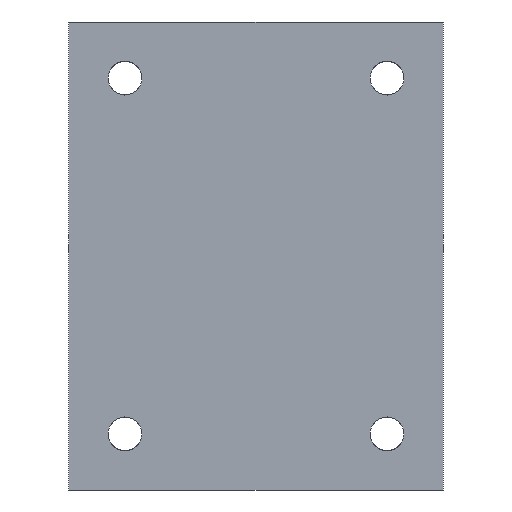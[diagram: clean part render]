
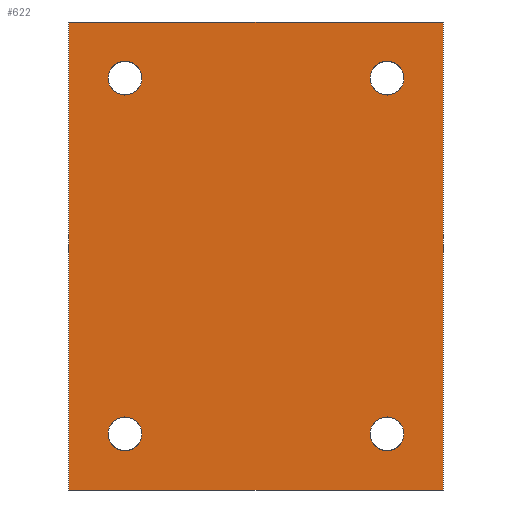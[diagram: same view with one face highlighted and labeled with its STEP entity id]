
A CAD part, front view. The second image highlights one B-rep face of the part: STEP entity #622.
In plain terms, the highlighted face is a extrusion surface.
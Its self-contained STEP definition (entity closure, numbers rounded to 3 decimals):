
#439=CARTESIAN_POINT('Control Point',(-100.,0.,0.)) ;
#440=CARTESIAN_POINT('Control Point',(-100.,0.,-125.)) ;
#444=CARTESIAN_POINT('Line Origine',(-50.,0.,-125.)) ;
#448=CARTESIAN_POINT('Vertex',(-100.,0.,-125.)) ;
#450=CARTESIAN_POINT('Vertex',(0.,0.,-125.)) ;
#453=CARTESIAN_POINT('Line Origine',(0.,0.,-62.5)) ;
#457=CARTESIAN_POINT('Vertex',(0.,0.,0.)) ;
#460=CARTESIAN_POINT('Line Origine',(-50.,0.,0.)) ;
#464=CARTESIAN_POINT('Vertex',(-100.,0.,0.)) ;
#467=CARTESIAN_POINT('Line Origine',(-100.,0.,-62.5)) ;
#479=CARTESIAN_POINT('Control Point',(-10.5,0.,-110.)) ;
#480=CARTESIAN_POINT('Control Point',(-10.5,0.,-111.247)) ;
#481=CARTESIAN_POINT('Control Point',(-10.932,0.,-112.494)) ;
#482=CARTESIAN_POINT('Control Point',(-11.8,0.,-113.539)) ;
#483=CARTESIAN_POINT('Control Point',(-13.71,0.,-114.63)) ;
#484=CARTESIAN_POINT('Control Point',(-15.841,0.,-114.54)) ;
#485=CARTESIAN_POINT('Control Point',(-16.671,0.,-114.305)) ;
#486=CARTESIAN_POINT('Control Point',(-18.085,0.,-113.511)) ;
#487=CARTESIAN_POINT('Control Point',(-19.032,0.,-112.204)) ;
#488=CARTESIAN_POINT('Control Point',(-19.344,0.,-111.498)) ;
#489=CARTESIAN_POINT('Control Point',(-19.5,0.,-110.749)) ;
#490=CARTESIAN_POINT('Control Point',(-19.5,0.,-110.)) ;
#491=CARTESIAN_POINT('Vertex',(-10.5,0.,-110.)) ;
#493=CARTESIAN_POINT('Vertex',(-19.5,0.,-110.)) ;
#497=CARTESIAN_POINT('Control Point',(-19.5,0.,-110.)) ;
#498=CARTESIAN_POINT('Control Point',(-19.5,0.,-108.753)) ;
#499=CARTESIAN_POINT('Control Point',(-19.068,0.,-107.506)) ;
#500=CARTESIAN_POINT('Control Point',(-18.2,0.,-106.461)) ;
#501=CARTESIAN_POINT('Control Point',(-16.29,0.,-105.37)) ;
#502=CARTESIAN_POINT('Control Point',(-14.159,0.,-105.46)) ;
#503=CARTESIAN_POINT('Control Point',(-13.329,0.,-105.695)) ;
#504=CARTESIAN_POINT('Control Point',(-11.915,0.,-106.489)) ;
#505=CARTESIAN_POINT('Control Point',(-10.968,0.,-107.796)) ;
#506=CARTESIAN_POINT('Control Point',(-10.656,0.,-108.502)) ;
#507=CARTESIAN_POINT('Control Point',(-10.5,0.,-109.251)) ;
#508=CARTESIAN_POINT('Control Point',(-10.5,0.,-110.)) ;
#515=CARTESIAN_POINT('Control Point',(-80.5,0.,-110.)) ;
#516=CARTESIAN_POINT('Control Point',(-80.5,0.,-111.247)) ;
#517=CARTESIAN_POINT('Control Point',(-80.932,0.,-112.494)) ;
#518=CARTESIAN_POINT('Control Point',(-81.8,0.,-113.539)) ;
#519=CARTESIAN_POINT('Control Point',(-83.71,0.,-114.63)) ;
#520=CARTESIAN_POINT('Control Point',(-85.841,0.,-114.54)) ;
#521=CARTESIAN_POINT('Control Point',(-86.671,0.,-114.305)) ;
#522=CARTESIAN_POINT('Control Point',(-88.085,0.,-113.511)) ;
#523=CARTESIAN_POINT('Control Point',(-89.032,0.,-112.204)) ;
#524=CARTESIAN_POINT('Control Point',(-89.344,0.,-111.498)) ;
#525=CARTESIAN_POINT('Control Point',(-89.5,0.,-110.749)) ;
#526=CARTESIAN_POINT('Control Point',(-89.5,0.,-110.)) ;
#527=CARTESIAN_POINT('Vertex',(-80.5,0.,-110.)) ;
#529=CARTESIAN_POINT('Vertex',(-89.5,0.,-110.)) ;
#533=CARTESIAN_POINT('Control Point',(-89.5,0.,-110.)) ;
#534=CARTESIAN_POINT('Control Point',(-89.5,0.,-108.753)) ;
#535=CARTESIAN_POINT('Control Point',(-89.068,0.,-107.506)) ;
#536=CARTESIAN_POINT('Control Point',(-88.2,0.,-106.461)) ;
#537=CARTESIAN_POINT('Control Point',(-86.29,0.,-105.37)) ;
#538=CARTESIAN_POINT('Control Point',(-84.159,0.,-105.46)) ;
#539=CARTESIAN_POINT('Control Point',(-83.329,0.,-105.695)) ;
#540=CARTESIAN_POINT('Control Point',(-81.915,0.,-106.489)) ;
#541=CARTESIAN_POINT('Control Point',(-80.968,0.,-107.796)) ;
#542=CARTESIAN_POINT('Control Point',(-80.656,0.,-108.502)) ;
#543=CARTESIAN_POINT('Control Point',(-80.5,0.,-109.251)) ;
#544=CARTESIAN_POINT('Control Point',(-80.5,0.,-110.)) ;
#551=CARTESIAN_POINT('Control Point',(-80.5,0.,-15.)) ;
#552=CARTESIAN_POINT('Control Point',(-80.5,0.,-16.247)) ;
#553=CARTESIAN_POINT('Control Point',(-80.932,0.,-17.494)) ;
#554=CARTESIAN_POINT('Control Point',(-81.8,0.,-18.539)) ;
#555=CARTESIAN_POINT('Control Point',(-83.71,0.,-19.63)) ;
#556=CARTESIAN_POINT('Control Point',(-85.841,0.,-19.54)) ;
#557=CARTESIAN_POINT('Control Point',(-86.671,0.,-19.305)) ;
#558=CARTESIAN_POINT('Control Point',(-88.085,0.,-18.511)) ;
#559=CARTESIAN_POINT('Control Point',(-89.032,0.,-17.204)) ;
#560=CARTESIAN_POINT('Control Point',(-89.344,0.,-16.498)) ;
#561=CARTESIAN_POINT('Control Point',(-89.5,0.,-15.749)) ;
#562=CARTESIAN_POINT('Control Point',(-89.5,0.,-15.)) ;
#563=CARTESIAN_POINT('Vertex',(-80.5,0.,-15.)) ;
#565=CARTESIAN_POINT('Vertex',(-89.5,0.,-15.)) ;
#569=CARTESIAN_POINT('Control Point',(-89.5,0.,-15.)) ;
#570=CARTESIAN_POINT('Control Point',(-89.5,0.,-13.753)) ;
#571=CARTESIAN_POINT('Control Point',(-89.068,0.,-12.506)) ;
#572=CARTESIAN_POINT('Control Point',(-88.2,0.,-11.461)) ;
#573=CARTESIAN_POINT('Control Point',(-86.29,0.,-10.37)) ;
#574=CARTESIAN_POINT('Control Point',(-84.159,0.,-10.46)) ;
#575=CARTESIAN_POINT('Control Point',(-83.329,0.,-10.695)) ;
#576=CARTESIAN_POINT('Control Point',(-81.915,0.,-11.489)) ;
#577=CARTESIAN_POINT('Control Point',(-80.968,0.,-12.796)) ;
#578=CARTESIAN_POINT('Control Point',(-80.656,0.,-13.502)) ;
#579=CARTESIAN_POINT('Control Point',(-80.5,0.,-14.251)) ;
#580=CARTESIAN_POINT('Control Point',(-80.5,0.,-15.)) ;
#587=CARTESIAN_POINT('Control Point',(-10.5,0.,-15.)) ;
#588=CARTESIAN_POINT('Control Point',(-10.5,0.,-16.247)) ;
#589=CARTESIAN_POINT('Control Point',(-10.932,0.,-17.494)) ;
#590=CARTESIAN_POINT('Control Point',(-11.8,0.,-18.539)) ;
#591=CARTESIAN_POINT('Control Point',(-13.71,0.,-19.63)) ;
#592=CARTESIAN_POINT('Control Point',(-15.841,0.,-19.54)) ;
#593=CARTESIAN_POINT('Control Point',(-16.671,0.,-19.305)) ;
#594=CARTESIAN_POINT('Control Point',(-18.085,0.,-18.511)) ;
#595=CARTESIAN_POINT('Control Point',(-19.032,0.,-17.204)) ;
#596=CARTESIAN_POINT('Control Point',(-19.344,0.,-16.498)) ;
#597=CARTESIAN_POINT('Control Point',(-19.5,0.,-15.749)) ;
#598=CARTESIAN_POINT('Control Point',(-19.5,0.,-15.)) ;
#599=CARTESIAN_POINT('Vertex',(-10.5,0.,-15.)) ;
#601=CARTESIAN_POINT('Vertex',(-19.5,0.,-15.)) ;
#605=CARTESIAN_POINT('Control Point',(-19.5,0.,-15.)) ;
#606=CARTESIAN_POINT('Control Point',(-19.5,0.,-13.753)) ;
#607=CARTESIAN_POINT('Control Point',(-19.068,0.,-12.506)) ;
#608=CARTESIAN_POINT('Control Point',(-18.2,0.,-11.461)) ;
#609=CARTESIAN_POINT('Control Point',(-16.29,0.,-10.37)) ;
#610=CARTESIAN_POINT('Control Point',(-14.159,0.,-10.46)) ;
#611=CARTESIAN_POINT('Control Point',(-13.329,0.,-10.695)) ;
#612=CARTESIAN_POINT('Control Point',(-11.915,0.,-11.489)) ;
#613=CARTESIAN_POINT('Control Point',(-10.968,0.,-12.796)) ;
#614=CARTESIAN_POINT('Control Point',(-10.656,0.,-13.502)) ;
#615=CARTESIAN_POINT('Control Point',(-10.5,0.,-14.251)) ;
#616=CARTESIAN_POINT('Control Point',(-10.5,0.,-15.)) ;
#441=DIRECTION('Vector Direction',(1.,0.,0.)) ;
#445=DIRECTION('Vector Direction',(1.,0.,0.)) ;
#454=DIRECTION('Vector Direction',(0.,0.,-1.)) ;
#461=DIRECTION('Vector Direction',(1.,0.,0.)) ;
#468=DIRECTION('Vector Direction',(0.,0.,-1.)) ;
#473=ORIENTED_EDGE('',*,*,#452,.T.) ;
#474=ORIENTED_EDGE('',*,*,#459,.T.) ;
#475=ORIENTED_EDGE('',*,*,#466,.T.) ;
#476=ORIENTED_EDGE('',*,*,#471,.T.) ;
#511=ORIENTED_EDGE('',*,*,#495,.T.) ;
#512=ORIENTED_EDGE('',*,*,#509,.T.) ;
#547=ORIENTED_EDGE('',*,*,#531,.T.) ;
#548=ORIENTED_EDGE('',*,*,#545,.T.) ;
#583=ORIENTED_EDGE('',*,*,#567,.T.) ;
#584=ORIENTED_EDGE('',*,*,#581,.T.) ;
#619=ORIENTED_EDGE('',*,*,#603,.T.) ;
#620=ORIENTED_EDGE('',*,*,#617,.T.) ;
#513=FACE_BOUND('',#510,.T.) ;
#549=FACE_BOUND('',#546,.T.) ;
#585=FACE_BOUND('',#582,.T.) ;
#621=FACE_BOUND('',#618,.T.) ;
#442=VECTOR('Extrusion Surface Vector',#441,1.) ;
#446=VECTOR('Line Direction',#445,1.) ;
#455=VECTOR('Line Direction',#454,1.) ;
#462=VECTOR('Line Direction',#461,1.) ;
#469=VECTOR('Line Direction',#468,1.) ;
#622=ADVANCED_FACE('Superficie.6',(#477,#513,#549,#585,#621),#443,.T.) ;
#438=B_SPLINE_CURVE_WITH_KNOTS('',1,(#439,#440),.UNSPECIFIED.,.F.,.U.,(2,2),(-62.5,62.5),.UNSPECIFIED.) ;
#478=B_SPLINE_CURVE_WITH_KNOTS('',5,(#479,#480,#481,#482,#483,#484,#485,#486,#487,#488,#489,#490),.UNSPECIFIED.,.F.,.U.,(6,3,3,6),(0.,8.818,14.697,19.993),.UNSPECIFIED.) ;
#496=B_SPLINE_CURVE_WITH_KNOTS('',5,(#497,#498,#499,#500,#501,#502,#503,#504,#505,#506,#507,#508),.UNSPECIFIED.,.F.,.U.,(6,3,3,6),(0.,8.818,14.697,19.993),.UNSPECIFIED.) ;
#514=B_SPLINE_CURVE_WITH_KNOTS('',5,(#515,#516,#517,#518,#519,#520,#521,#522,#523,#524,#525,#526),.UNSPECIFIED.,.F.,.U.,(6,3,3,6),(0.,8.818,14.697,19.993),.UNSPECIFIED.) ;
#532=B_SPLINE_CURVE_WITH_KNOTS('',5,(#533,#534,#535,#536,#537,#538,#539,#540,#541,#542,#543,#544),.UNSPECIFIED.,.F.,.U.,(6,3,3,6),(0.,8.818,14.697,19.993),.UNSPECIFIED.) ;
#550=B_SPLINE_CURVE_WITH_KNOTS('',5,(#551,#552,#553,#554,#555,#556,#557,#558,#559,#560,#561,#562),.UNSPECIFIED.,.F.,.U.,(6,3,3,6),(0.,8.818,14.697,19.993),.UNSPECIFIED.) ;
#568=B_SPLINE_CURVE_WITH_KNOTS('',5,(#569,#570,#571,#572,#573,#574,#575,#576,#577,#578,#579,#580),.UNSPECIFIED.,.F.,.U.,(6,3,3,6),(0.,8.818,14.697,19.993),.UNSPECIFIED.) ;
#586=B_SPLINE_CURVE_WITH_KNOTS('',5,(#587,#588,#589,#590,#591,#592,#593,#594,#595,#596,#597,#598),.UNSPECIFIED.,.F.,.U.,(6,3,3,6),(0.,8.818,14.697,19.993),.UNSPECIFIED.) ;
#604=B_SPLINE_CURVE_WITH_KNOTS('',5,(#605,#606,#607,#608,#609,#610,#611,#612,#613,#614,#615,#616),.UNSPECIFIED.,.F.,.U.,(6,3,3,6),(0.,8.818,14.697,19.993),.UNSPECIFIED.) ;
#452=EDGE_CURVE('',#449,#451,#447,.T.) ;
#459=EDGE_CURVE('',#451,#458,#456,.F.) ;
#466=EDGE_CURVE('',#458,#465,#463,.F.) ;
#471=EDGE_CURVE('',#465,#449,#470,.T.) ;
#495=EDGE_CURVE('',#492,#494,#478,.T.) ;
#509=EDGE_CURVE('',#494,#492,#496,.T.) ;
#531=EDGE_CURVE('',#528,#530,#514,.T.) ;
#545=EDGE_CURVE('',#530,#528,#532,.T.) ;
#567=EDGE_CURVE('',#564,#566,#550,.T.) ;
#581=EDGE_CURVE('',#566,#564,#568,.T.) ;
#603=EDGE_CURVE('',#600,#602,#586,.T.) ;
#617=EDGE_CURVE('',#602,#600,#604,.T.) ;
#472=EDGE_LOOP('',(#473,#474,#475,#476)) ;
#510=EDGE_LOOP('',(#511,#512)) ;
#546=EDGE_LOOP('',(#547,#548)) ;
#582=EDGE_LOOP('',(#583,#584)) ;
#618=EDGE_LOOP('',(#619,#620)) ;
#477=FACE_OUTER_BOUND('',#472,.T.) ;
#447=LINE('Line',#444,#446) ;
#456=LINE('Line',#453,#455) ;
#463=LINE('Line',#460,#462) ;
#470=LINE('Line',#467,#469) ;
#443=SURFACE_OF_LINEAR_EXTRUSION('generated tabulated cylinder',#438,#442) ;
#449=VERTEX_POINT('',#448) ;
#451=VERTEX_POINT('',#450) ;
#458=VERTEX_POINT('',#457) ;
#465=VERTEX_POINT('',#464) ;
#492=VERTEX_POINT('',#491) ;
#494=VERTEX_POINT('',#493) ;
#528=VERTEX_POINT('',#527) ;
#530=VERTEX_POINT('',#529) ;
#564=VERTEX_POINT('',#563) ;
#566=VERTEX_POINT('',#565) ;
#600=VERTEX_POINT('',#599) ;
#602=VERTEX_POINT('',#601) ;
